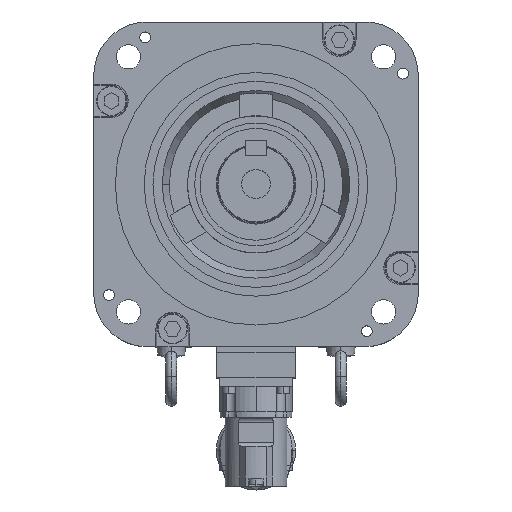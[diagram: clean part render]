
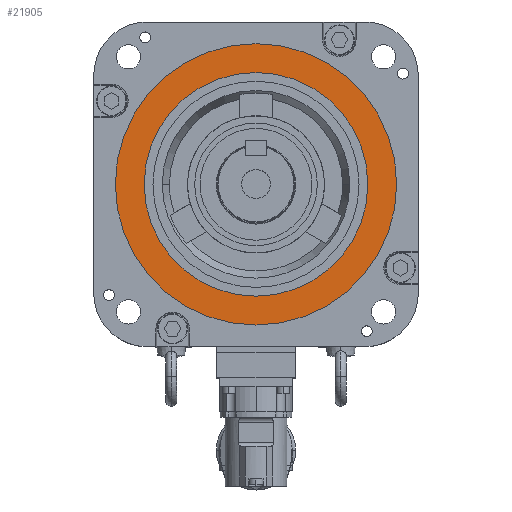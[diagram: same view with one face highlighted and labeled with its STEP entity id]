
A CAD part, top view. The second image highlights one B-rep face of the part: STEP entity #21905.
In plain terms, the highlighted planar face has unit normal (0, 0, 1).
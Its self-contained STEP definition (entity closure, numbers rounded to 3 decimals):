
#204 = DIRECTION ( 'NONE',  ( 1., 0., 0. ) ) ;
#205 = DIRECTION ( 'NONE',  ( 0., 0., 1. ) ) ;
#206 = CARTESIAN_POINT ( 'NONE',  ( 0., 0., -0.5 ) ) ;
#207 = AXIS2_PLACEMENT_3D ( 'NONE', #206, #205, #204 ) ;
#208 = CIRCLE ( 'NONE', #207, 62. ) ;
#315 = AXIS2_PLACEMENT_3D ( 'NONE', #384, #383, #382 ) ;
#316 = PLANE ( 'NONE',  #315 ) ;
#317 = FACE_BOUND ( 'NONE', #21822, .T. ) ;
#318 = FACE_OUTER_BOUND ( 'NONE', #21845, .T. ) ;
#378 = DIRECTION ( 'NONE',  ( 1., 0., 0. ) ) ;
#379 = DIRECTION ( 'NONE',  ( 0., 0., 1. ) ) ;
#380 = AXIS2_PLACEMENT_3D ( 'NONE', #385, #379, #378 ) ;
#381 = CIRCLE ( 'NONE', #380, 78. ) ;
#382 = DIRECTION ( 'NONE',  ( 1., 0., 0. ) ) ;
#383 = DIRECTION ( 'NONE',  ( 0., 0., 1. ) ) ;
#384 = CARTESIAN_POINT ( 'NONE',  ( 0., 0., -0.5 ) ) ;
#385 = CARTESIAN_POINT ( 'NONE',  ( 0., 0., -0.5 ) ) ;
#20322 = VERTEX_POINT ( 'NONE', #33837 ) ;
#20362 = EDGE_CURVE ( 'NONE', #20322, #20363, #33945, .T. ) ;
#20363 = VERTEX_POINT ( 'NONE', #33940 ) ;
#20369 = EDGE_CURVE ( 'NONE', #20370, #20371, #33933, .T. ) ;
#20370 = VERTEX_POINT ( 'NONE', #33924 ) ;
#20371 = VERTEX_POINT ( 'NONE', #33923 ) ;
#21821 = ORIENTED_EDGE ( 'NONE', *, *, #20369, .T. ) ;
#21822 = EDGE_LOOP ( 'NONE', ( #21823, #21825 ) ) ;
#21823 = ORIENTED_EDGE ( 'NONE', *, *, #21824, .F. ) ;
#21824 = EDGE_CURVE ( 'NONE', #20363, #20322, #208, .T. ) ;
#21825 = ORIENTED_EDGE ( 'NONE', *, *, #20362, .F. ) ;
#21845 = EDGE_LOOP ( 'NONE', ( #21906, #21821 ) ) ;
#21905 = ADVANCED_FACE ( 'NONE', ( #318, #317 ), #316, .T. ) ;
#21906 = ORIENTED_EDGE ( 'NONE', *, *, #21907, .T. ) ;
#21907 = EDGE_CURVE ( 'NONE', #20371, #20370, #381, .T. ) ;
#33837 = CARTESIAN_POINT ( 'NONE',  ( 62., 0., -0.5 ) ) ;
#33923 = CARTESIAN_POINT ( 'NONE',  ( 78., 0., -0.5 ) ) ;
#33924 = CARTESIAN_POINT ( 'NONE',  ( -78., 0., -0.5 ) ) ;
#33925 = DIRECTION ( 'NONE',  ( 1., 0., 0. ) ) ;
#33926 = DIRECTION ( 'NONE',  ( 0., 0., 1. ) ) ;
#33927 = CARTESIAN_POINT ( 'NONE',  ( 0., 0., -0.5 ) ) ;
#33928 = AXIS2_PLACEMENT_3D ( 'NONE', #33927, #33926, #33925 ) ;
#33933 = CIRCLE ( 'NONE', #33928, 78. ) ;
#33940 = CARTESIAN_POINT ( 'NONE',  ( -62., 0., -0.5 ) ) ;
#33941 = DIRECTION ( 'NONE',  ( 1., 0., 0. ) ) ;
#33942 = DIRECTION ( 'NONE',  ( 0., 0., 1. ) ) ;
#33943 = CARTESIAN_POINT ( 'NONE',  ( 0., 0., -0.5 ) ) ;
#33944 = AXIS2_PLACEMENT_3D ( 'NONE', #33943, #33942, #33941 ) ;
#33945 = CIRCLE ( 'NONE', #33944, 62. ) ;
